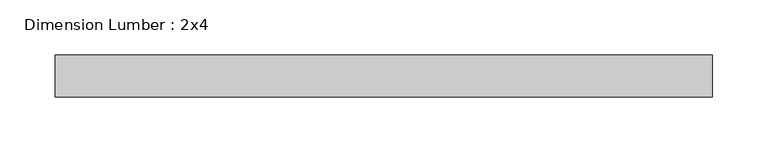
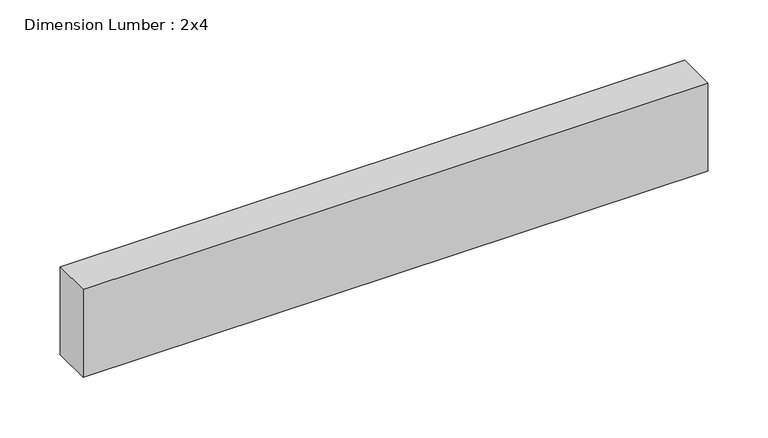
"""IFC4 building model written with IfcOpenShell, lengths in millimetres: beam geometry, Dimension Lumber : 2x4."""

from ifc_helpers import new_model, si_unit, frame, origin, place, context, project, spatial, polyline, outline, extrude, source, transform, mapped, element, save


def dimension_lumber_2x4_fd937da0(model_context):
    return source(origin(), model_context, "Body", "SweptSolid", [
        extrude(outline(polyline([(298.4499994, 19.05), (298.4499994, -19.05), (-298.4499994, -19.05), (-298.4499994, 19.05), (298.4499994, 19.05)])), frame((0.0, 0.0, -44.45), z_axis=(0.0, 0.0, 1.0), x_axis=(1.0, 0.0, 0.0)), (0.0, 0.0, 1.0), 88.9),
    ])


if __name__ == "__main__":
    model = new_model("IFC4")
    model_context = context("Model", 3, world=origin())
    ifc_project = project(units=[si_unit("LENGTHUNIT", "METRE", prefix="MILLI")], contexts=[model_context])
    site = spatial("IfcSite", under=ifc_project)
    building = spatial("IfcBuilding", under=site)
    placement = place(None, origin())
    dimension_lumber_2x4_shape = dimension_lumber_2x4_fd937da0(model_context)
    element("IfcBeam", 1, ObjectType="Dimension Lumber : 2x4", at=placement, inside=building, context=model_context, shape_type="MappedRepresentation", body=[
        mapped(dimension_lumber_2x4_shape, transform((0.0, 0.0, 0.0), x_axis=(1.0, 0.0, 0.0), y_axis=(0.0, 1.0, 0.0), z_axis=(0.0, 0.0, 1.0))),
    ])
    save(model, "model.ifc")
